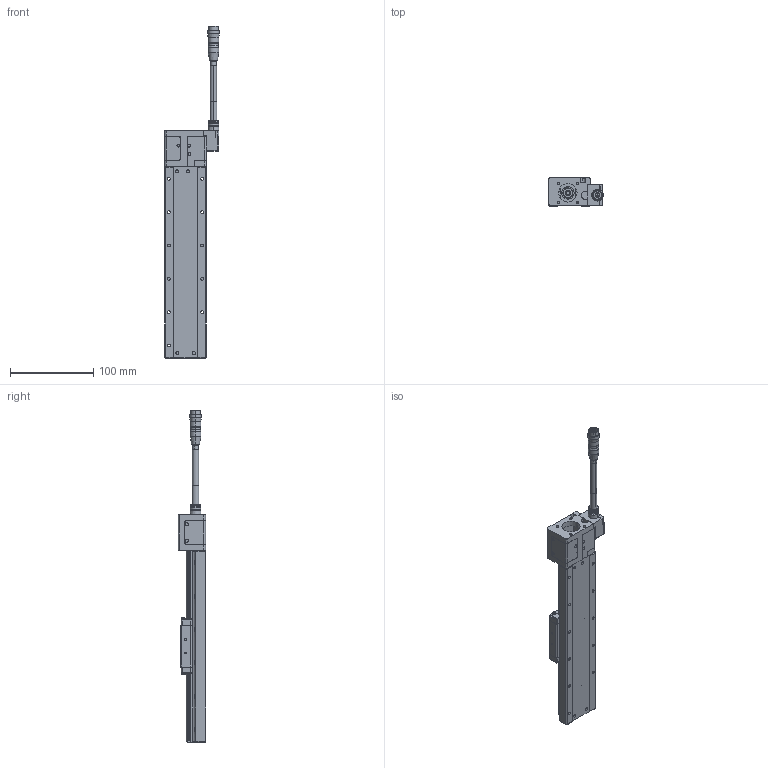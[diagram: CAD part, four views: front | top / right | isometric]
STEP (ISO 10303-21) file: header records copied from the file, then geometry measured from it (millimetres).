
FILE_DESCRIPTION (( 'STEP AP203' ), '1' );
FILE_NAME ('CXN50150-S2?N(42框無馬達).', '2024-01-05T02:30:51', ( '' ), ( '' ), 'SwSTEP 2.0', 'SolidWorks 2019', '' );
FILE_SCHEMA (( 'CONFIG_CONTROL_DESIGN' ));
Products named in the file (4): Group1^CXN50150-S2?N(42框無馬達)_defeature_GMT; CXN50150-S2?N(42框無馬達); Group2^CXN50150-S2?N(42框無馬達)_defeature_GMT; HR10A-10J-12P_帶線示意
Assembly tree (3 placements, depth 2):
  CXN50150-S2?N(42框無馬達)
    Group1^CXN50150-S2?N(42框無馬達)_defeature_GMT
    Group2^CXN50150-S2?N(42框無馬達)_defeature_GMT
    HR10A-10J-12P_帶線示意
Bounding box: 65.5 x 33.5 x 398.5 mm (x, y, z)
Volume: 34867.4 mm3; surface area: 115743.6 mm2
Topology: 5 solids, 55 shells, 3914 faces, 9839 edges, 5926 vertices
Faces by surface type: plane 1291, cylinder 1224, cone 776, torus 278, bspline 181, sphere 164
Entity records: 122557 total; most frequent: CARTESIAN_POINT 28209, DIRECTION 20932, ORIENTED_EDGE 19266, EDGE_CURVE 9633, AXIS2_PLACEMENT_3D 8124, VERTEX_POINT 5893, VECTOR 4684, LINE 4684
